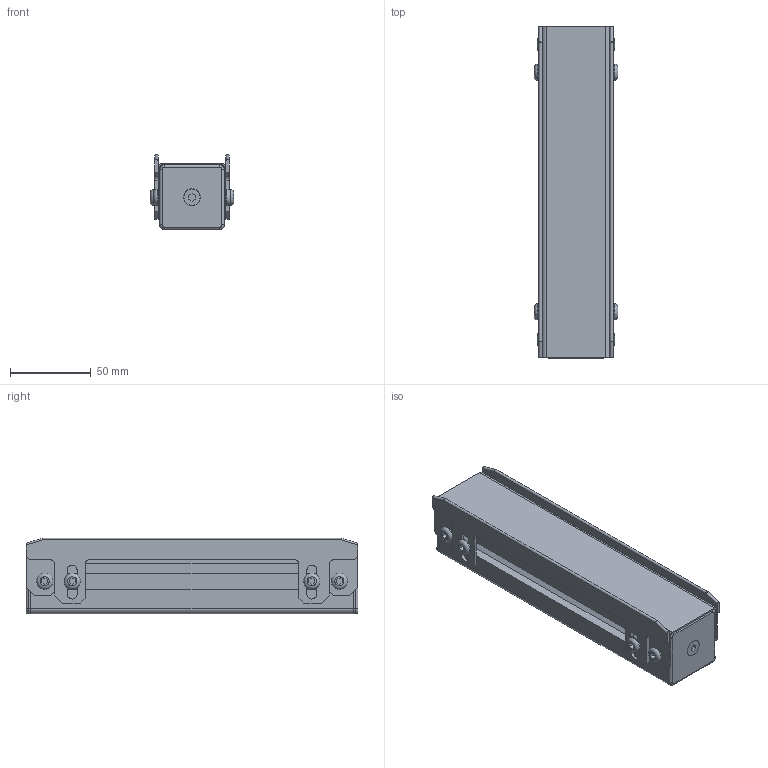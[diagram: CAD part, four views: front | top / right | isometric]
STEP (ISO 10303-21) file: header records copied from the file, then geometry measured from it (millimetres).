
FILE_DESCRIPTION(/* description */ (''),/* implementation_level */ '2;1');
FILE_NAME(/* name */ 'MGSS-FA-4040x205H.step',/* time_stamp */ '2022-12-15T12:53:56+09:00',/* author */ (''),/* organization */ (''),/* preprocessor_version */ 'ST-DEVELOPER v19.2',/* originating_system */ 'Autodesk Translation Framework v11.17.0.187',/* authorisation */ '');
FILE_SCHEMA (('AUTOMOTIVE_DESIGN { 1 0 10303 214 3 1 1 }'));
Length unit declared in the file: millimetre
Products named in the file (1): MGSS-FA-4040x205H
Bounding box: 51.6 x 205 x 46.5 mm (x, y, z)
Volume: 165724.2 mm3; surface area: 145450.3 mm2
Topology: 16 solids, 16 shells, 352 faces, 928 edges, 610 vertices
Faces by surface type: plane 236, cylinder 88, bspline 8, torus 8, sphere 8, cone 4
Full cylindrical faces by diameter (mm): 5 x2, 6 x4, 10 x8
Entity records: 10996 total; most frequent: CARTESIAN_POINT 1955, ORIENTED_EDGE 1856, DIRECTION 1844, EDGE_CURVE 928, LINE 702, VECTOR 702, VERTEX_POINT 610, AXIS2_PLACEMENT_3D 571
